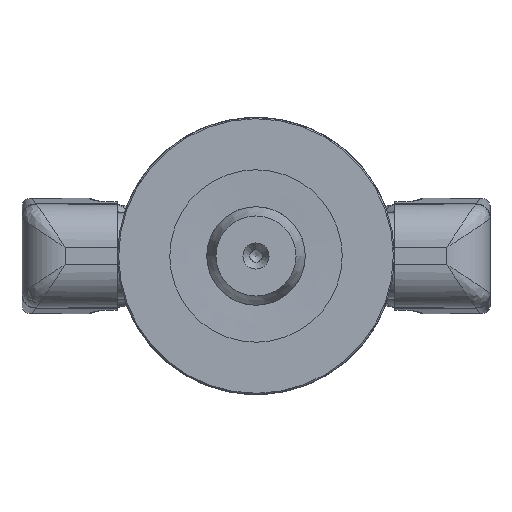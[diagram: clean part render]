
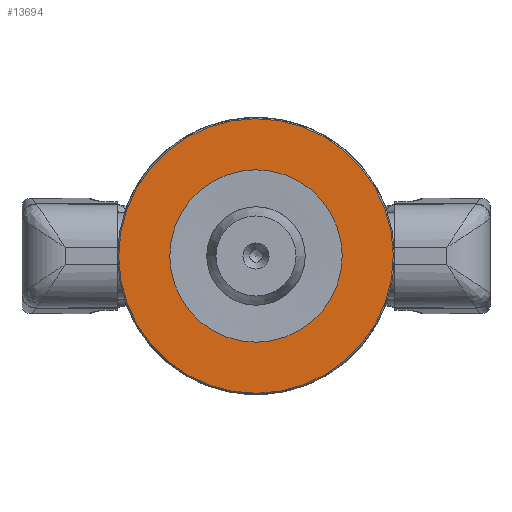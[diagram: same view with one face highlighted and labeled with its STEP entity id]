
A CAD part, front view. The second image highlights one B-rep face of the part: STEP entity #13694.
In plain terms, the highlighted planar face has unit normal (0, -1, 0) as drawn and (0, 0, -1) by its records, which use the part's own axes.
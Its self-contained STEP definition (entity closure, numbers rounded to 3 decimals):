
#303=FACE_BOUND('',#4254,.T.);
#773=CIRCLE('',#14776,22.3);
#775=CIRCLE('',#14780,14.);
#2576=PLANE('',#14779);
#3373=FACE_OUTER_BOUND('',#4253,.T.);
#4253=EDGE_LOOP('',(#12533));
#4254=EDGE_LOOP('',(#12534));
#6402=VERTEX_POINT('',#43958);
#6404=VERTEX_POINT('',#43964);
#8449=EDGE_CURVE('',#6402,#6402,#773,.T.);
#8451=EDGE_CURVE('',#6404,#6404,#775,.T.);
#12533=ORIENTED_EDGE('',*,*,#8449,.F.);
#12534=ORIENTED_EDGE('',*,*,#8451,.F.);
#13694=ADVANCED_FACE('',(#3373,#303),#2576,.F.);
#14776=AXIS2_PLACEMENT_3D('',#43959,#17553,#17554);
#14779=AXIS2_PLACEMENT_3D('',#43963,#17559,#17560);
#14780=AXIS2_PLACEMENT_3D('',#43965,#17561,#17562);
#17553=DIRECTION('center_axis',(0.,0.,1.));
#17554=DIRECTION('ref_axis',(-1.,0.,0.));
#17559=DIRECTION('center_axis',(0.,0.,1.));
#17560=DIRECTION('ref_axis',(1.,0.,0.));
#17561=DIRECTION('center_axis',(0.,0.,-1.));
#17562=DIRECTION('ref_axis',(-1.,0.,0.));
#43958=CARTESIAN_POINT('',(22.3,0.,0.));
#43959=CARTESIAN_POINT('Origin',(0.,0.,0.));
#43963=CARTESIAN_POINT('Origin',(0.,0.,0.));
#43964=CARTESIAN_POINT('',(14.,0.,0.));
#43965=CARTESIAN_POINT('Origin',(0.,0.,0.));
